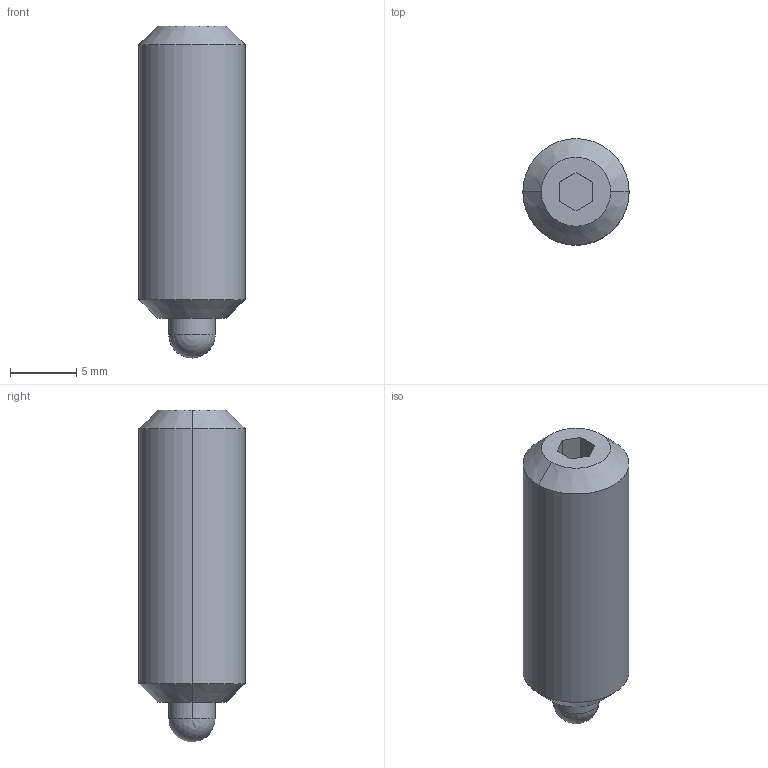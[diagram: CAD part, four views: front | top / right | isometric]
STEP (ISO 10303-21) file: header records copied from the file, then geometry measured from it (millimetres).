
FILE_DESCRIPTION (( 'STEP AP203' ), '1' );
FILE_NAME ('plh8-sus.STEP', '2021-10-26T05:06:41', ( '' ), ( '' ), 'SwSTEP 2.0', 'SolidWorks 2020', '' );
FILE_SCHEMA (( 'CONFIG_CONTROL_DESIGN' ));
Length unit declared in the file: millimetre
Products named in the file (1): plh8-sus
Bounding box: 8 x 8 x 24.99 mm (x, y, z)
Volume: 1069.3 mm3; surface area: 656.5 mm2
Topology: 1 solids, 1 shells, 18 faces, 42 edges, 26 vertices
Faces by surface type: plane 9, cone 4, cylinder 4, sphere 1
Entity records: 559 total; most frequent: DIRECTION 88, CARTESIAN_POINT 81, ORIENTED_EDGE 76, EDGE_CURVE 38, AXIS2_PLACEMENT_3D 31, LINE 26, VECTOR 26, VERTEX_POINT 24
